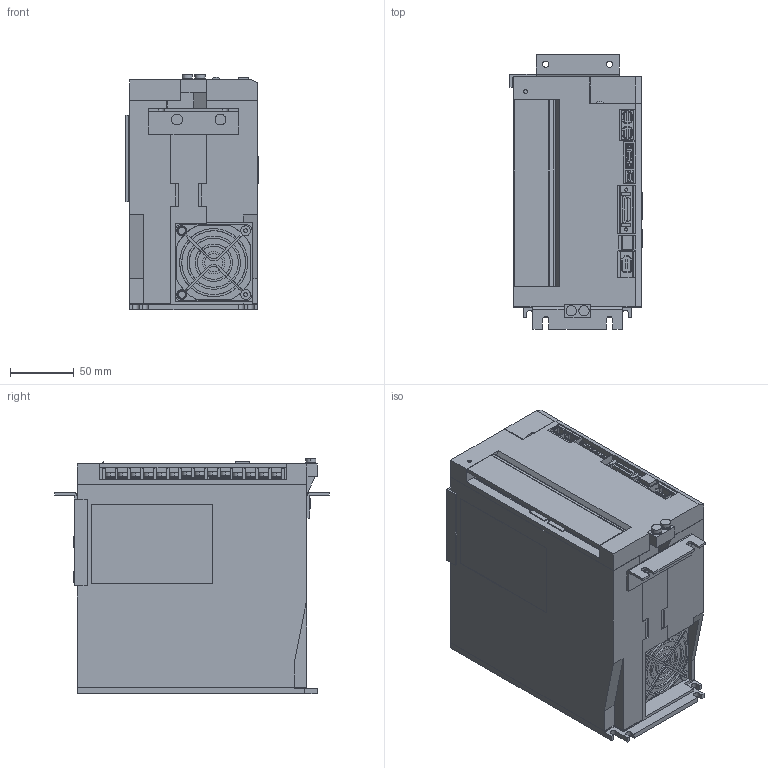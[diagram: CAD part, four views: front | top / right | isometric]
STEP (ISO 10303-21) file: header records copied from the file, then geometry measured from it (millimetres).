
FILE_DESCRIPTION (( 'STEP AP203' ), '1' );
FILE_NAME ('sgd7s_200a20a001.STEP', '2015-09-18T08:27:00', ( '匠エンジニアリング山之内' ), ( 'TAKUMI-Engniaring' ), 'SwSTEP 2.0', 'SolidWorks 2006303', '' );
FILE_SCHEMA (( 'CONFIG_CONTROL_DESIGN' ));
Products named in the file (9): sgd7s_200a20a001_cover2; sgd7s_200a20a001; sgd7s_200a20a001_base; sgd7s_200a20a001_cover; sgd7s_200a20a001_connector; sgd7s_200a20a001_cover3; sgd7s_200a20a001_terminal; sgd7s_200a20a001_mount1; sgd7s_200a20a001_mount2
Assembly tree (10 placements, depth 2):
  sgd7s_200a20a001
    sgd7s_200a20a001_cover2  x2
    sgd7s_200a20a001_base
    sgd7s_200a20a001_mount2
    sgd7s_200a20a001_connector
    sgd7s_200a20a001_terminal  x2
    sgd7s_200a20a001_cover
    sgd7s_200a20a001_mount1
    sgd7s_200a20a001_cover3
Bounding box: 103.5 x 215 x 184.6 mm (x, y, z)
Volume: 3128687.7 mm3; surface area: 216651.6 mm2
Topology: 10 solids, 10 shells, 2075 faces, 5502 edges, 3606 vertices
Faces by surface type: plane 1729, cylinder 341, cone 4, sphere 1
Entity records: 63461 total; most frequent: CARTESIAN_POINT 10987, ORIENTED_EDGE 10800, DIRECTION 10312, EDGE_CURVE 5400, LINE 4586, VECTOR 4586, VERTEX_POINT 3538, AXIS2_PLACEMENT_3D 2863
